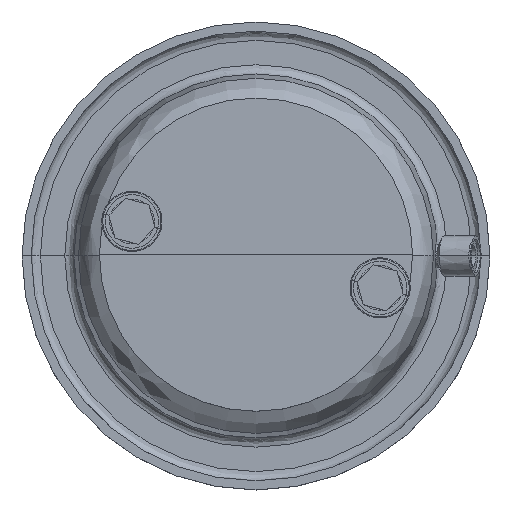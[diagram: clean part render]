
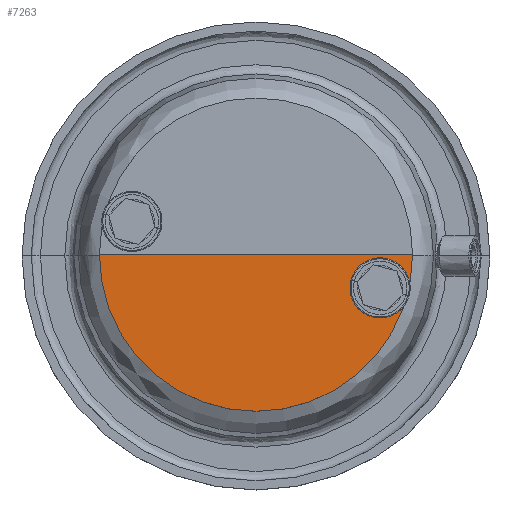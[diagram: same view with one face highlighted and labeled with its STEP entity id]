
A CAD part, top view. The second image highlights one B-rep face of the part: STEP entity #7263.
In plain terms, the highlighted planar face has unit normal (0, 0, 1).
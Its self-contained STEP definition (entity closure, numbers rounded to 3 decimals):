
#498=LINE('',#14084,#838);
#838=VECTOR('',#9739,304.8);
#1443=FACE_OUTER_BOUND('',#1967,.T.);
#1967=EDGE_LOOP('',(#5389,#5390));
#2578=CIRCLE('',#8082,85.362);
#3115=VERTEX_POINT('',#14081);
#3116=VERTEX_POINT('',#14082);
#3878=EDGE_CURVE('',#3116,#3115,#498,.T.);
#3879=EDGE_CURVE('',#3116,#3115,#2578,.T.);
#5389=ORIENTED_EDGE('',*,*,#3879,.T.);
#5390=ORIENTED_EDGE('',*,*,#3878,.F.);
#6393=PLANE('',#8081);
#7263=ADVANCED_FACE('',(#1443),#6393,.F.);
#8081=AXIS2_PLACEMENT_3D('',#14085,#9740,#9741);
#8082=AXIS2_PLACEMENT_3D('',#14086,#9742,#9743);
#9739=DIRECTION('',(1.,0.,0.));
#9740=DIRECTION('center_axis',(0.,0.,-1.));
#9741=DIRECTION('ref_axis',(-1.,0.,0.));
#9742=DIRECTION('center_axis',(0.,0.,1.));
#9743=DIRECTION('ref_axis',(-1.,0.,0.));
#14081=CARTESIAN_POINT('',(85.362,0.,566.029));
#14082=CARTESIAN_POINT('',(-85.362,0.,566.029));
#14084=CARTESIAN_POINT('',(-85.362,0.,566.029));
#14085=CARTESIAN_POINT('Origin',(0.,0.,566.029));
#14086=CARTESIAN_POINT('Origin',(0.,0.,566.029));
